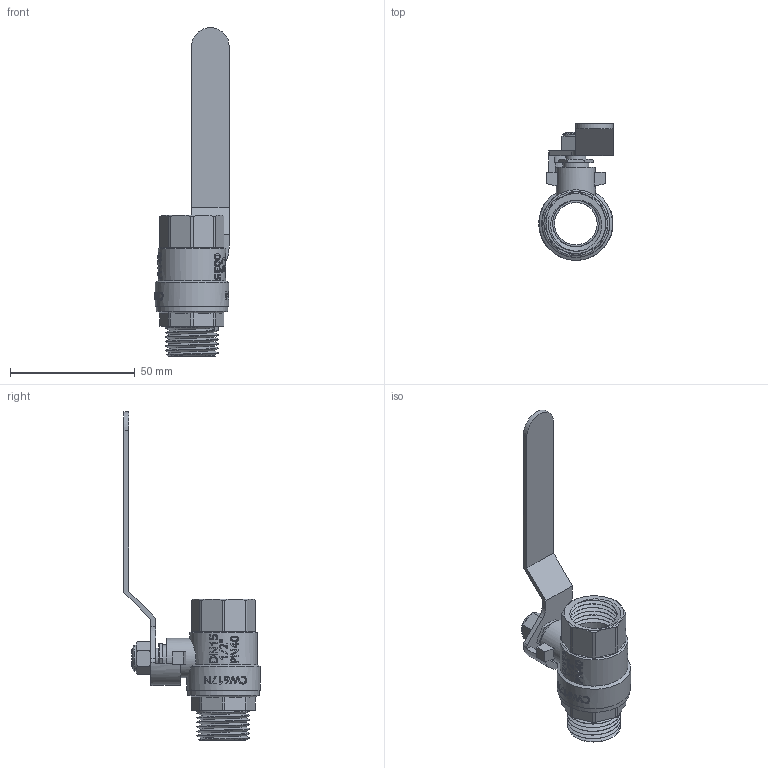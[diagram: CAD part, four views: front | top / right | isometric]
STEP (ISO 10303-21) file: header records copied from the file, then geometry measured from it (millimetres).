
FILE_DESCRIPTION(/* description */ (''),/* implementation_level */ '2;1');
FILE_NAME(/* name */ 'H:\Мишенин_3D\Исходные файлы 3D\VT.215.N.04.stp',/* time_stamp */ '2018-01-16T15:00:47+03:00',/* author */ ('MisheninAL'),/* organization */ (''),/* preprocessor_version */ 'ST-DEVELOPER v16.13',/* originating_system */ 'Autodesk Inventor 2018',/* authorisation */ '');
FILE_SCHEMA (('AUTOMOTIVE_DESIGN { 1 0 10303 214 3 1 1 }'));
Length unit declared in the file: millimetre
Products named in the file (1): VT.215_ ВН_1%2
Bounding box: 29.74 x 54.61 x 131.65 mm (x, y, z)
Volume: 20687.8 mm3; surface area: 15416.3 mm2
Topology: 1 solids, 1 shells, 512 faces, 1352 edges, 893 vertices
Faces by surface type: plane 225, bspline 192, cylinder 85, cone 6, torus 4
Full cylindrical faces by diameter (mm): 8 x2, 10.392 x1, 10.5 x1, 15.729 x1, 17 x1, 18.6 x6, 27.05 x1, 28.593 x1, 29.45 x1
Entity records: 25022 total; most frequent: CARTESIAN_POINT 13678, ORIENTED_EDGE 2616, DIRECTION 1819, EDGE_CURVE 1308, VERTEX_POINT 873, LINE 627, VECTOR 627, AXIS2_PLACEMENT_3D 596
